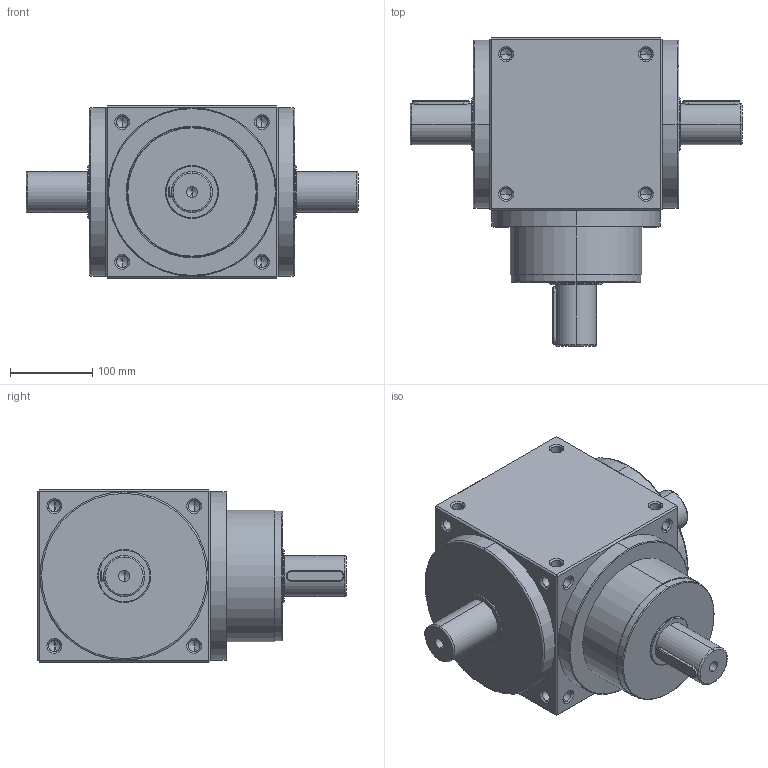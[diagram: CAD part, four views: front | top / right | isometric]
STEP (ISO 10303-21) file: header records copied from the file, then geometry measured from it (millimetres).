
FILE_DESCRIPTION (( 'STEP AP214' ), '1' );
FILE_NAME ('AT210-L-001.STEP', '2020-08-03T08:40:05', ( 'User' ), ( 'Far123' ), 'SwSTEP 2.0', 'SolidWorks 2015', '' );
FILE_SCHEMA (( 'AUTOMOTIVE_DESIGN' ));
Length unit declared in the file: millimetre
Products named in the file (1): AT210-L-001
Bounding box: 404 x 375 x 210 mm (x, y, z)
Volume: 12933108.7 mm3; surface area: 401530.5 mm2
Topology: 1 solids, 1 shells, 310 faces, 788 edges, 435 vertices
Faces by surface type: cylinder 130, cone 118, plane 52, torus 10
Entity records: 10222 total; most frequent: CARTESIAN_POINT 2218, ORIENTED_EDGE 1468, DIRECTION 1432, EDGE_CURVE 734, AXIS2_PLACEMENT_3D 553, VERTEX_POINT 435, EDGE_LOOP 351, LINE 326
